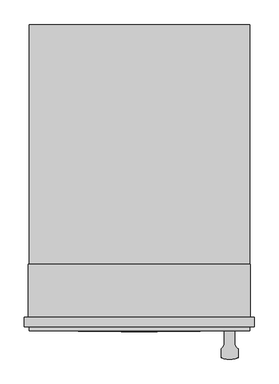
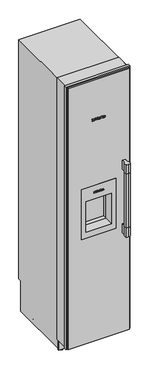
"""IFC4 building model written with IfcOpenShell, lengths in millimetres: proxy geometry, 11503530_USA_F2472SF : 37247211_USA_11503530_F2472SF."""

from ifc_helpers import new_model, si_unit, point, frame, frame_2d, origin, place, context, project, spatial, polyline, circle_curve, ellipse_curve, trimmed, segment, composite_curve, outline, extrude, faceted_brep, source, transform, mapped, element, save
from ifc_brep_helpers import plane_surface, cylinder_surface, revolved_surface, extruded_surface, advanced_brep


def specialty_equipment_17c33e57(model_context):
    return source(origin(), model_context, "Body", "SolidModel", [
        extrude(outline(polyline([(-6.5, 75.0), (6.5, 75.0), (6.5, 21.0), (-6.5, 21.0), (-6.5, 75.0)])), frame((0.0, 0.0, 99.0), z_axis=(0.0, 0.0, 1.0), x_axis=(1.0, 0.0, 0.0)), (0.0, 0.0, 1.0), 67.0),
        extrude(outline(polyline([(1295.0, 125.0), (1295.0, -125.0), (908.0, -125.0), (908.0, 125.0), (1295.0, 125.0)]), holes=[polyline([(1190.0, 94.0), (956.0, 94.0), (956.0, -94.0), (1190.0, -94.0), (1190.0, 94.0)])]), frame((0.0, -1.3, 0.0), z_axis=(0.0, 1.0, 0.0), x_axis=(0.0, 0.0, 1.0)), (0.0, 0.0, 1.0), 69.3),
        extrude(outline(polyline([(2036.0, 214.5), (2036.0, -214.5), (265.0, -214.5), (265.0, 214.5), (2036.0, 214.5)]), holes=[polyline([(1295.0, 125.0), (908.0, 125.0), (908.0, -125.0), (1295.0, -125.0), (1295.0, 125.0)])]), frame((0.0, 21.0, 0.0), z_axis=(0.0, 1.0, 0.0), x_axis=(0.0, 0.0, 1.0)), (0.0, 0.0, 1.0), 47.0),
        faceted_brep([(-158.0, 68.0, 863.0), (-158.0, 68.0, 1335.0), (-158.0, 260.0, 1335.0), (-158.0, 260.0, 987.0), (-158.0, 161.0, 863.0), (158.0, 68.0, 863.0), (158.0, 161.0, 863.0), (158.0, 260.0, 987.0), (158.0, 260.0, 1335.0), (158.0, 68.0, 1335.0), (94.0, 68.0, 1190.0), (94.0, 68.0, 956.0), (-94.0, 68.0, 956.0), (-94.0, 68.0, 1190.0), (94.0, 100.0, 1190.0), (-94.0, 100.0, 1190.0), (-94.0, 100.0, 956.0), (94.0, 100.0, 956.0)], [[[0, 1, 2, 3, 4]], [[5, 6, 7, 8, 9]], [[0, 4, 6, 5]], [[4, 3, 7, 6]], [[3, 2, 8, 7]], [[2, 1, 9, 8]], [[1, 0, 5, 9], [10, 11, 12, 13]], [[14, 15, 16, 17]], [[14, 17, 11, 10]], [[17, 16, 12, 11]], [[16, 15, 13, 12]], [[15, 14, 10, 13]]]),
        extrude(outline(polyline([(2113.0, 225.5), (2113.0, -225.5), (90.0, -225.5), (90.0, 225.5), (2113.0, 225.5)]), holes=[polyline([(1295.0, 125.0), (908.0, 125.0), (908.0, -125.0), (1295.0, -125.0), (1295.0, 125.0)])]), frame((0.0, 0.0, 0.0), z_axis=(0.0, 1.0, 0.0), x_axis=(0.0, 0.0, 1.0)), (0.0, 0.0, 1.0), 21.0),
        extrude(outline(polyline([(-61.0, 50.0), (61.0, 50.0), (61.0, 21.0), (-61.0, 21.0), (-61.0, 50.0)])), frame((0.0, 0.0, 2036.0), z_axis=(0.0, 0.0, 1.0), x_axis=(1.0, 0.0, 0.0)), (0.0, 0.0, 1.0), 56.0),
        extrude(outline(composite_curve([segment(trimmed(circle_curve(frame_2d((158.4285714, -24.4390599)), 15.5714286), [point((167.0, -37.4390599))], [point((174.0, -24.4390599))], True, "CARTESIAN"), True, "CONTINUOUS"), segment(polyline([(174.0, -24.4390599), (174.0, 0.0), (195.0, 0.0), (195.0, -24.4390599)]), True, "CONTINUOUS"), segment(trimmed(circle_curve(frame_2d((210.5714286, -24.4390599)), 15.5714286), [point((195.0, -24.4390599))], [point((202.0, -37.4390599))], True, "CARTESIAN"), True, "CONTINUOUS"), segment(polyline([(202.0, -37.4390599), (202.0, -55.0)]), True, "CONTINUOUS"), segment(trimmed(circle_curve(frame_2d((184.5, -18.71875)), 40.28125), [point((202.0, -55.0))], [point((184.5, -59.0))], False, "CARTESIAN"), True, "CONTINUOUS"), segment(trimmed(circle_curve(frame_2d((184.5, -18.71875)), 40.28125), [point((184.5, -59.0))], [point((167.0, -55.0))], False, "CARTESIAN"), True, "CONTINUOUS"), segment(polyline([(167.0, -55.0), (167.0, -37.4390599)]), True, "CONTINUOUS")], self_intersect=False)), frame((0.0, 0.0, 858.0), z_axis=(0.0, 0.0, 1.0), x_axis=(1.0, 0.0, 0.0)), (0.0, 0.0, 1.0), 70.0),
        extrude(outline(composite_curve([segment(trimmed(circle_curve(frame_2d((158.4285714, -24.4390599)), 15.5714286), [point((167.0, -37.4390599))], [point((174.0, -24.4390599))], True, "CARTESIAN"), True, "CONTINUOUS"), segment(polyline([(174.0, -24.4390599), (174.0, 0.0), (195.0, 0.0), (195.0, -24.4390599)]), True, "CONTINUOUS"), segment(trimmed(circle_curve(frame_2d((210.5714286, -24.4390599)), 15.5714286), [point((195.0, -24.4390599))], [point((202.0, -37.4390599))], True, "CARTESIAN"), True, "CONTINUOUS"), segment(polyline([(202.0, -37.4390599), (202.0, -55.0)]), True, "CONTINUOUS"), segment(trimmed(circle_curve(frame_2d((184.5, -18.71875)), 40.28125), [point((202.0, -55.0))], [point((184.5, -59.0))], False, "CARTESIAN"), True, "CONTINUOUS"), segment(trimmed(circle_curve(frame_2d((184.5, -18.71875)), 40.28125), [point((184.5, -59.0))], [point((167.0, -55.0))], False, "CARTESIAN"), True, "CONTINUOUS"), segment(polyline([(167.0, -55.0), (167.0, -37.4390599)]), True, "CONTINUOUS")], self_intersect=False)), frame((0.0, 0.0, 1348.0), z_axis=(0.0, 0.0, 1.0), x_axis=(1.0, 0.0, 0.0)), (0.0, 0.0, 1.0), 70.0),
        extrude(outline(composite_curve([segment(trimmed(circle_curve(frame_2d((158.4285714, -24.4390599)), 15.5714286), [point((167.0, -37.4390599))], [point((168.8599688, -36.0))], True, "CARTESIAN"), True, "CONTINUOUS"), segment(polyline([(168.8599688, -36.0), (200.1400312, -36.0)]), True, "CONTINUOUS"), segment(trimmed(circle_curve(frame_2d((210.5714286, -24.4390599)), 15.5714286), [point((200.1400312, -36.0))], [point((202.0, -37.4390599))], True, "CARTESIAN"), True, "CONTINUOUS"), segment(polyline([(202.0, -37.4390599), (202.0, -55.0)]), True, "CONTINUOUS"), segment(trimmed(circle_curve(frame_2d((184.5, -18.71875)), 40.28125), [point((202.0, -55.0))], [point((184.5, -59.0))], False, "CARTESIAN"), True, "CONTINUOUS"), segment(trimmed(circle_curve(frame_2d((184.5, -18.71875)), 40.28125), [point((184.5, -59.0))], [point((167.0, -55.0))], False, "CARTESIAN"), True, "CONTINUOUS"), segment(polyline([(167.0, -55.0), (167.0, -37.4390599)]), True, "CONTINUOUS")], self_intersect=False)), frame((0.0, 0.0, 928.0), z_axis=(0.0, 0.0, 1.0), x_axis=(1.0, 0.0, 0.0)), (0.0, 0.0, 1.0), 420.0),
        advanced_brep(
        [(28.472, -2.3, 1241.344), (28.472, -2.3, 1242.556), (36.5, -2.3, 1242.556), (22.532, -2.3, 1242.556), (25.832, -2.3, 1238.5), (36.296, -2.3, 1241.344), (32.672, -2.3, 1241.344), (29.816, -2.3, 1240.0), (28.472, -2.3, 1244.092), (28.472, -2.3, 1245.4), (30.524, -2.3, 1245.4), (30.524, -2.3, 1244.092), (28.472, -1.3, 1241.344), (29.816, -1.3, 1240.0), (32.672, -1.3, 1241.344), (36.296, -1.3, 1241.344), (25.832, -1.3, 1238.5), (22.532, -1.3, 1242.556), (36.5, -1.3, 1242.556), (28.472, -1.3, 1242.556), (28.472, -1.3, 1244.092), (30.524, -1.3, 1244.092), (30.524, -1.3, 1245.4), (28.472, -1.3, 1245.4)],
        [
            (0, 1),
            (1, 2),
            (2, 3, ellipse_curve(frame((29.516, -2.3, 1242.556), z_axis=(0.0, -1.0, 0.0), x_axis=(-1.0, 0.0, 0.0)), 6.984, 5.772)),
            (3, 4, circle_curve(frame((27.1760655, -2.3, 1242.964), z_axis=(0.0, -1.0, 0.0), x_axis=(0.0, 0.0, -1.0)), 4.6619532)),
            (4, 5, circle_curve(frame((29.3761904, -2.3, 1246.132), z_axis=(0.0, -1.0, 0.0), x_axis=(0.0, 0.0, -1.0)), 8.4147911)),
            (5, 6),
            (6, 7, circle_curve(frame((30.4025882, -2.3, 1242.46), z_axis=(0.0, 1.0, 0.0), x_axis=(0.0, 0.0, -1.0)), 2.5289693)),
            (7, 0, circle_curve(frame((29.816, -2.3, 1241.344), z_axis=(0.0, 1.0, 0.0), x_axis=(0.0, 0.0, -1.0)), 1.344)),
            (8, 9),
            (9, 10, circle_curve(frame((29.498, -2.3, 1245.4), z_axis=(0.0, 1.0, 0.0), x_axis=(0.0, 0.0, -1.0)), 1.026)),
            (10, 11),
            (11, 8),
            (12, 13, circle_curve(frame((29.816, -1.3, 1241.344), z_axis=(0.0, -1.0, 0.0), x_axis=(0.0, 0.0, -1.0)), 1.344)),
            (13, 14, circle_curve(frame((30.4025882, -1.3, 1242.46), z_axis=(0.0, -1.0, 0.0), x_axis=(0.0, 0.0, -1.0)), 2.5289693)),
            (14, 15),
            (15, 16, circle_curve(frame((29.3761904, -1.3, 1246.132), z_axis=(0.0, 1.0, 0.0), x_axis=(0.0, 0.0, -1.0)), 8.4147911)),
            (16, 17, circle_curve(frame((27.1760655, -1.3, 1242.964), z_axis=(0.0, 1.0, 0.0), x_axis=(0.0, 0.0, -1.0)), 4.6619532)),
            (17, 18, ellipse_curve(frame((29.516, -1.3, 1242.556), z_axis=(0.0, 1.0, 0.0), x_axis=(-1.0, 0.0, 0.0)), 6.984, 5.772)),
            (18, 19),
            (19, 12),
            (20, 21),
            (21, 22),
            (22, 23, circle_curve(frame((29.498, -1.3, 1245.4), z_axis=(0.0, -1.0, 0.0), x_axis=(0.0, 0.0, -1.0)), 1.026)),
            (23, 20),
            (0, 12),
            (19, 1),
            (18, 2),
            (5, 15),
            (14, 6),
            (17, 3),
            (13, 7),
            (16, 4),
            (8, 20),
            (23, 9),
            (22, 10),
            (21, 11),
        ],
        [
            plane_surface(frame((28.472, -2.3, 1242.556), z_axis=(0.0, -1.0, 0.0), x_axis=(0.0, 0.0, 1.0))),
            plane_surface(frame((28.472, -1.3, 1242.556), z_axis=(0.0, 1.0, 0.0), x_axis=(0.0, 0.0, -1.0))),
            plane_surface(frame((28.472, -2.3, 1241.344), z_axis=(1.0, 0.0, 0.0), x_axis=(0.0, 1.0, 0.0))),
            plane_surface(frame((28.472, -2.3, 1242.556), z_axis=(0.0, 0.0, -1.0), x_axis=(0.0, 1.0, 0.0))),
            plane_surface(frame((36.296, -2.3, 1241.344), z_axis=(0.0, 0.0, 1.0), x_axis=(0.0, 1.0, 0.0))),
            extruded_surface(trimmed(ellipse_curve(frame((29.516, -0.3, 1242.556), z_axis=(0.0, -1.0, 0.0), x_axis=(-1.0, 0.0, 0.0)), 6.984, 5.772), [point((36.5, -0.3, 1242.556))], [point((22.532, -0.3, 1242.556))], True, "CARTESIAN"), (0.0, -1.0, 0.0), 1.0),
            revolved_surface(polyline([(30.4025882, -1.3, 1239.9310307), (30.4025882, -2.3, 1239.9310307)]), (30.4025882, -1.3, 1242.46), (0.0, 1.0, 0.0)),
            revolved_surface(polyline([(29.816, -1.3, 1240.0), (29.816, -2.3, 1240.0)]), (29.816, -1.3, 1241.344), (0.0, 1.0, 0.0)),
            cylinder_surface(frame((27.1760655, -1.3, 1242.964), z_axis=(0.0, -1.0, 0.0), x_axis=(0.0, 0.0, -1.0)), 4.6619532),
            cylinder_surface(frame((29.3761904, -1.3, 1246.132), z_axis=(0.0, -1.0, 0.0), x_axis=(0.0, 0.0, -1.0)), 8.4147911),
            plane_surface(frame((28.472, -2.3, 1244.092), z_axis=(1.0, 0.0, 0.0), x_axis=(0.0, 1.0, 0.0))),
            revolved_surface(polyline([(29.498, -1.3, 1244.374), (29.498, -2.3, 1244.374)]), (29.498, -1.3, 1245.4), (0.0, 1.0, 0.0)),
            plane_surface(frame((30.524, -2.3, 1245.4), z_axis=(-1.0, 0.0, 0.0), x_axis=(0.0, 1.0, 0.0))),
            plane_surface(frame((30.524, -2.3, 1244.092), z_axis=(0.0, 0.0, 1.0), x_axis=(0.0, 1.0, 0.0))),
        ],
        [
            (0, [[1, 2, 3, 4, 5, 6, 7, 8], [9, 10, 11, 12]]),
            (1, [[13, 14, 15, 16, 17, 18, 19, 20], [21, 22, 23, 24]]),
            (2, [[-1, 25, -20, 26]]),
            (3, [[-2, -26, -19, 27]]),
            (4, [[-6, 28, -15, 29]]),
            (5, [[-3, -27, -18, 30]]),
            (6, [[-7, -29, -14, 31]]),
            (7, [[-8, -31, -13, -25]]),
            (8, [[-4, -30, -17, 32]]),
            (9, [[-5, -32, -16, -28]]),
            (10, [[-9, 33, -24, 34]]),
            (11, [[-10, -34, -23, 35]]),
            (12, [[-11, -35, -22, 36]]),
            (13, [[-12, -36, -21, -33]]),
        ],
    ),
        advanced_brep(
        [(3.428, -2.3, 1241.344), (3.428, -2.3, 1242.556), (11.456, -2.3, 1242.556), (-2.512, -2.3, 1242.556), (0.788, -2.3, 1238.5), (11.252, -2.3, 1241.344), (7.628, -2.3, 1241.344), (4.772, -2.3, 1240.0), (3.428, -2.3, 1244.092), (3.428, -2.3, 1245.4), (5.48, -2.3, 1245.4), (5.48, -2.3, 1244.092), (3.428, -1.3, 1241.344), (4.772, -1.3, 1240.0), (7.628, -1.3, 1241.344), (11.252, -1.3, 1241.344), (0.788, -1.3, 1238.5), (-2.512, -1.3, 1242.556), (11.456, -1.3, 1242.556), (3.428, -1.3, 1242.556), (3.428, -1.3, 1244.092), (5.48, -1.3, 1244.092), (5.48, -1.3, 1245.4), (3.428, -1.3, 1245.4)],
        [
            (0, 1),
            (1, 2),
            (2, 3, ellipse_curve(frame((4.472, -2.3, 1242.556), z_axis=(0.0, -1.0, 0.0), x_axis=(-1.0, 0.0, 0.0)), 6.984, 5.772)),
            (3, 4, circle_curve(frame((2.1320655, -2.3, 1242.964), z_axis=(0.0, -1.0, 0.0), x_axis=(0.0, 0.0, -1.0)), 4.6619532)),
            (4, 5, circle_curve(frame((4.3321904, -2.3, 1246.132), z_axis=(0.0, -1.0, 0.0), x_axis=(0.0, 0.0, -1.0)), 8.4147911)),
            (5, 6),
            (6, 7, circle_curve(frame((5.3585882, -2.3, 1242.46), z_axis=(0.0, 1.0, 0.0), x_axis=(0.0, 0.0, -1.0)), 2.5289693)),
            (7, 0, circle_curve(frame((4.772, -2.3, 1241.344), z_axis=(0.0, 1.0, 0.0), x_axis=(0.0, 0.0, -1.0)), 1.344)),
            (8, 9),
            (9, 10, circle_curve(frame((4.454, -2.3, 1245.4), z_axis=(0.0, 1.0, 0.0), x_axis=(0.0, 0.0, -1.0)), 1.026)),
            (10, 11),
            (11, 8),
            (12, 13, circle_curve(frame((4.772, -1.3, 1241.344), z_axis=(0.0, -1.0, 0.0), x_axis=(0.0, 0.0, -1.0)), 1.344)),
            (13, 14, circle_curve(frame((5.3585882, -1.3, 1242.46), z_axis=(0.0, -1.0, 0.0), x_axis=(0.0, 0.0, -1.0)), 2.5289693)),
            (14, 15),
            (15, 16, circle_curve(frame((4.3321904, -1.3, 1246.132), z_axis=(0.0, 1.0, 0.0), x_axis=(0.0, 0.0, -1.0)), 8.4147911)),
            (16, 17, circle_curve(frame((2.1320655, -1.3, 1242.964), z_axis=(0.0, 1.0, 0.0), x_axis=(0.0, 0.0, -1.0)), 4.6619532)),
            (17, 18, ellipse_curve(frame((4.472, -1.3, 1242.556), z_axis=(0.0, 1.0, 0.0), x_axis=(-1.0, 0.0, 0.0)), 6.984, 5.772)),
            (18, 19),
            (19, 12),
            (20, 21),
            (21, 22),
            (22, 23, circle_curve(frame((4.454, -1.3, 1245.4), z_axis=(0.0, -1.0, 0.0), x_axis=(0.0, 0.0, -1.0)), 1.026)),
            (23, 20),
            (0, 12),
            (19, 1),
            (18, 2),
            (5, 15),
            (14, 6),
            (17, 3),
            (13, 7),
            (16, 4),
            (8, 20),
            (23, 9),
            (22, 10),
            (21, 11),
        ],
        [
            plane_surface(frame((3.428, -2.3, 1242.556), z_axis=(0.0, -1.0, 0.0), x_axis=(0.0, 0.0, 1.0))),
            plane_surface(frame((3.428, -1.3, 1242.556), z_axis=(0.0, 1.0, 0.0), x_axis=(0.0, 0.0, -1.0))),
            plane_surface(frame((3.428, -2.3, 1241.344), z_axis=(1.0, 0.0, 0.0), x_axis=(0.0, 1.0, 0.0))),
            plane_surface(frame((3.428, -2.3, 1242.556), z_axis=(0.0, 0.0, -1.0), x_axis=(0.0, 1.0, 0.0))),
            plane_surface(frame((11.252, -2.3, 1241.344), z_axis=(0.0, 0.0, 1.0), x_axis=(0.0, 1.0, 0.0))),
            extruded_surface(trimmed(ellipse_curve(frame((4.472, -0.3, 1242.556), z_axis=(0.0, -1.0, 0.0), x_axis=(-1.0, 0.0, 0.0)), 6.984, 5.772), [point((11.456, -0.3, 1242.556))], [point((-2.512, -0.3, 1242.556))], True, "CARTESIAN"), (0.0, -1.0, 0.0), 1.0),
            revolved_surface(polyline([(5.3585882, -1.3, 1239.9310307), (5.3585882, -2.3, 1239.9310307)]), (5.3585882, -1.3, 1242.46), (0.0, 1.0, 0.0)),
            revolved_surface(polyline([(4.772, -1.3, 1240.0), (4.772, -2.3, 1240.0)]), (4.772, -1.3, 1241.344), (0.0, 1.0, 0.0)),
            cylinder_surface(frame((2.1320655, -1.3, 1242.964), z_axis=(0.0, -1.0, 0.0), x_axis=(0.0, 0.0, -1.0)), 4.6619532),
            cylinder_surface(frame((4.3321904, -1.3, 1246.132), z_axis=(0.0, -1.0, 0.0), x_axis=(0.0, 0.0, -1.0)), 8.4147911),
            plane_surface(frame((3.428, -2.3, 1244.092), z_axis=(1.0, 0.0, 0.0), x_axis=(0.0, 1.0, 0.0))),
            revolved_surface(polyline([(4.454, -1.3, 1244.374), (4.454, -2.3, 1244.374)]), (4.454, -1.3, 1245.4), (0.0, 1.0, 0.0)),
            plane_surface(frame((5.48, -2.3, 1245.4), z_axis=(-1.0, 0.0, 0.0), x_axis=(0.0, 1.0, 0.0))),
            plane_surface(frame((5.48, -2.3, 1244.092), z_axis=(0.0, 0.0, 1.0), x_axis=(0.0, 1.0, 0.0))),
        ],
        [
            (0, [[1, 2, 3, 4, 5, 6, 7, 8], [9, 10, 11, 12]]),
            (1, [[13, 14, 15, 16, 17, 18, 19, 20], [21, 22, 23, 24]]),
            (2, [[-1, 25, -20, 26]]),
            (3, [[-2, -26, -19, 27]]),
            (4, [[-6, 28, -15, 29]]),
            (5, [[-3, -27, -18, 30]]),
            (6, [[-7, -29, -14, 31]]),
            (7, [[-8, -31, -13, -25]]),
            (8, [[-4, -30, -17, 32]]),
            (9, [[-5, -32, -16, -28]]),
            (10, [[-9, 33, -24, 34]]),
            (11, [[-10, -34, -23, 35]]),
            (12, [[-11, -35, -22, 36]]),
            (13, [[-12, -36, -21, -33]]),
        ],
    ),
        extrude(outline(polyline([(1249.792, -9.688), (1247.848, -8.776), (1249.744, -4.708), (1251.688, -5.608), (1249.792, -9.688)])), frame((0.0, -2.3, 0.0), z_axis=(0.0, 1.0, 0.0), x_axis=(0.0, 0.0, 1.0)), (0.0, 0.0, 1.0), 1.0),
        extrude(outline(polyline([(1247.584, -12.652), (1245.436, -12.652), (1245.436, -11.224), (1240.516, -11.224), (1240.516, -12.652), (1238.5, -12.652), (1238.5, -3.184), (1240.516, -3.184), (1240.516, -4.576), (1247.584, -4.576), (1247.584, -12.652)])), frame((0.0, -2.3, 0.0), z_axis=(0.0, 1.0, 0.0), x_axis=(0.0, 0.0, 1.0)), (0.0, 0.0, 1.0), 1.0),
        extrude(outline(polyline([(1248.544, 12.128), (1248.544, 13.568), (1240.516, 13.568), (1240.516, 12.128), (1238.5, 12.128), (1238.5, 21.86), (1240.516, 21.86), (1240.516, 20.384), (1250.5, 20.384), (1250.5, 12.128), (1248.544, 12.128)])), frame((0.0, -2.3, 0.0), z_axis=(0.0, 1.0, 0.0), x_axis=(0.0, 0.0, 1.0)), (0.0, 0.0, 1.0), 1.0),
        extrude(outline(polyline([(1248.544, -36.568), (1248.544, -35.116), (1240.516, -35.116), (1240.516, -36.568), (1238.5, -36.568), (1238.5, -31.288), (1240.516, -31.288), (1240.516, -32.728), (1245.5951247, -32.728), (1238.5, -27.364), (1245.8152223, -21.976), (1240.516, -21.976), (1240.516, -23.452), (1238.5, -23.452), (1238.5, -13.876), (1240.516, -13.876), (1240.516, -15.4), (1248.544, -15.4), (1248.544, -13.876), (1250.5, -13.876), (1250.5, -21.184), (1246.0, -24.688), (1250.5, -28.204), (1250.5, -36.568), (1248.544, -36.568)])), frame((0.0, -2.3, 0.0), z_axis=(0.0, 1.0, 0.0), x_axis=(0.0, 0.0, 1.0)), (0.0, 0.0, 1.0), 1.0),
        advanced_brep(
        [(38.22, -1.0, 1801.792), (38.22, -1.0, 1803.408), (48.924, -1.0, 1803.408), (30.3, -1.0, 1803.408), (34.7, -1.0, 1798.0), (48.652, -1.0, 1801.792), (43.82, -1.0, 1801.792), (40.012, -1.0, 1800.0), (38.22, -1.0, 1805.456), (38.22, -1.0, 1807.2), (40.956, -1.0, 1807.2), (40.956, -1.0, 1805.456), (38.22, 0.0, 1801.792), (40.012, 0.0, 1800.0), (43.82, 0.0, 1801.792), (48.652, 0.0, 1801.792), (34.7, 0.0, 1798.0), (30.3, 0.0, 1803.408), (48.924, 0.0, 1803.408), (38.22, 0.0, 1803.408), (38.22, 0.0, 1805.456), (40.956, 0.0, 1805.456), (40.956, 0.0, 1807.2), (38.22, 0.0, 1807.2)],
        [
            (0, 1),
            (1, 2),
            (2, 3, ellipse_curve(frame((39.612, -1.0, 1803.408), z_axis=(0.0, -1.0, 0.0), x_axis=(-1.0, 0.0, 0.0)), 9.312, 7.696)),
            (3, 4, circle_curve(frame((36.4920873, -1.0, 1803.952), z_axis=(0.0, -1.0, 0.0), x_axis=(0.0, 0.0, -1.0)), 6.2159376)),
            (4, 5, circle_curve(frame((39.4255872, -1.0, 1808.176), z_axis=(0.0, -1.0, 0.0), x_axis=(0.0, 0.0, -1.0)), 11.2197215)),
            (5, 6),
            (6, 7, circle_curve(frame((40.7941176, -1.0, 1803.28), z_axis=(0.0, 1.0, 0.0), x_axis=(0.0, 0.0, -1.0)), 3.3719591)),
            (7, 0, circle_curve(frame((40.012, -1.0, 1801.792), z_axis=(0.0, 1.0, 0.0), x_axis=(0.0, 0.0, -1.0)), 1.792)),
            (8, 9),
            (9, 10, circle_curve(frame((39.588, -1.0, 1807.2), z_axis=(0.0, 1.0, 0.0), x_axis=(0.0, 0.0, -1.0)), 1.368)),
            (10, 11),
            (11, 8),
            (12, 13, circle_curve(frame((40.012, 0.0, 1801.792), z_axis=(0.0, -1.0, 0.0), x_axis=(0.0, 0.0, -1.0)), 1.792)),
            (13, 14, circle_curve(frame((40.7941176, 0.0, 1803.28), z_axis=(0.0, -1.0, 0.0), x_axis=(0.0, 0.0, -1.0)), 3.3719591)),
            (14, 15),
            (15, 16, circle_curve(frame((39.4255872, 0.0, 1808.176), z_axis=(0.0, 1.0, 0.0), x_axis=(0.0, 0.0, -1.0)), 11.2197215)),
            (16, 17, circle_curve(frame((36.4920873, 0.0, 1803.952), z_axis=(0.0, 1.0, 0.0), x_axis=(0.0, 0.0, -1.0)), 6.2159376)),
            (17, 18, ellipse_curve(frame((39.612, 0.0, 1803.408), z_axis=(0.0, 1.0, 0.0), x_axis=(-1.0, 0.0, 0.0)), 9.312, 7.696)),
            (18, 19),
            (19, 12),
            (20, 21),
            (21, 22),
            (22, 23, circle_curve(frame((39.588, 0.0, 1807.2), z_axis=(0.0, -1.0, 0.0), x_axis=(0.0, 0.0, -1.0)), 1.368)),
            (23, 20),
            (0, 12),
            (19, 1),
            (18, 2),
            (5, 15),
            (14, 6),
            (17, 3),
            (13, 7),
            (16, 4),
            (8, 20),
            (23, 9),
            (22, 10),
            (21, 11),
        ],
        [
            plane_surface(frame((38.22, -1.0, 1803.408), z_axis=(0.0, -1.0, 0.0), x_axis=(0.0, 0.0, 1.0))),
            plane_surface(frame((38.22, 0.0, 1803.408), z_axis=(0.0, 1.0, 0.0), x_axis=(0.0, 0.0, -1.0))),
            plane_surface(frame((38.22, -1.0, 1801.792), z_axis=(1.0, 0.0, 0.0), x_axis=(0.0, 1.0, 0.0))),
            plane_surface(frame((38.22, -1.0, 1803.408), z_axis=(0.0, 0.0, -1.0), x_axis=(0.0, 1.0, 0.0))),
            plane_surface(frame((48.652, -1.0, 1801.792), z_axis=(0.0, 0.0, 1.0), x_axis=(0.0, 1.0, 0.0))),
            extruded_surface(trimmed(ellipse_curve(frame((39.612, 1.0, 1803.408), z_axis=(0.0, -1.0, 0.0), x_axis=(-1.0, 0.0, 0.0)), 9.312, 7.696), [point((48.924, 1.0, 1803.408))], [point((30.3, 1.0, 1803.408))], True, "CARTESIAN"), (0.0, -1.0, 0.0), 1.0),
            revolved_surface(polyline([(40.7941176, 0.0, 1799.9080409), (40.7941176, -1.0, 1799.9080409)]), (40.7941176, 0.0, 1803.28), (0.0, 1.0, 0.0)),
            revolved_surface(polyline([(40.012, 0.0, 1800.0), (40.012, -1.0, 1800.0)]), (40.012, 0.0, 1801.792), (0.0, 1.0, 0.0)),
            cylinder_surface(frame((36.4920873, 0.0, 1803.952), z_axis=(0.0, -1.0, 0.0), x_axis=(0.0, 0.0, -1.0)), 6.2159376),
            cylinder_surface(frame((39.4255872, 0.0, 1808.176), z_axis=(0.0, -1.0, 0.0), x_axis=(0.0, 0.0, -1.0)), 11.2197215),
            plane_surface(frame((38.22, -1.0, 1805.456), z_axis=(1.0, 0.0, 0.0), x_axis=(0.0, 1.0, 0.0))),
            revolved_surface(polyline([(39.588, 0.0, 1805.832), (39.588, -1.0, 1805.832)]), (39.588, 0.0, 1807.2), (0.0, 1.0, 0.0)),
            plane_surface(frame((40.956, -1.0, 1807.2), z_axis=(-1.0, 0.0, 0.0), x_axis=(0.0, 1.0, 0.0))),
            plane_surface(frame((40.956, -1.0, 1805.456), z_axis=(0.0, 0.0, 1.0), x_axis=(0.0, 1.0, 0.0))),
        ],
        [
            (0, [[1, 2, 3, 4, 5, 6, 7, 8], [9, 10, 11, 12]]),
            (1, [[13, 14, 15, 16, 17, 18, 19, 20], [21, 22, 23, 24]]),
            (2, [[-1, 25, -20, 26]]),
            (3, [[-2, -26, -19, 27]]),
            (4, [[-6, 28, -15, 29]]),
            (5, [[-3, -27, -18, 30]]),
            (6, [[-7, -29, -14, 31]]),
            (7, [[-8, -31, -13, -25]]),
            (8, [[-4, -30, -17, 32]]),
            (9, [[-5, -32, -16, -28]]),
            (10, [[-9, 33, -24, 34]]),
            (11, [[-10, -34, -23, 35]]),
            (12, [[-11, -35, -22, 36]]),
            (13, [[-12, -36, -21, -33]]),
        ],
    ),
        advanced_brep(
        [(4.828, -1.0, 1801.792), (4.828, -1.0, 1803.408), (15.532, -1.0, 1803.408), (-3.092, -1.0, 1803.408), (1.308, -1.0, 1798.0), (15.26, -1.0, 1801.792), (10.428, -1.0, 1801.792), (6.62, -1.0, 1800.0), (4.828, -1.0, 1805.456), (4.828, -1.0, 1807.2), (7.564, -1.0, 1807.2), (7.564, -1.0, 1805.456), (4.828, 0.0, 1801.792), (6.62, 0.0, 1800.0), (10.428, 0.0, 1801.792), (15.26, 0.0, 1801.792), (1.308, 0.0, 1798.0), (-3.092, 0.0, 1803.408), (15.532, 0.0, 1803.408), (4.828, 0.0, 1803.408), (4.828, 0.0, 1805.456), (7.564, 0.0, 1805.456), (7.564, 0.0, 1807.2), (4.828, 0.0, 1807.2)],
        [
            (0, 1),
            (1, 2),
            (2, 3, ellipse_curve(frame((6.22, -1.0, 1803.408), z_axis=(0.0, -1.0, 0.0), x_axis=(-1.0, 0.0, 0.0)), 9.312, 7.696)),
            (3, 4, circle_curve(frame((3.1000873, -1.0, 1803.952), z_axis=(0.0, -1.0, 0.0), x_axis=(0.0, 0.0, -1.0)), 6.2159376)),
            (4, 5, circle_curve(frame((6.0335872, -1.0, 1808.176), z_axis=(0.0, -1.0, 0.0), x_axis=(0.0, 0.0, -1.0)), 11.2197215)),
            (5, 6),
            (6, 7, circle_curve(frame((7.4021176, -1.0, 1803.28), z_axis=(0.0, 1.0, 0.0), x_axis=(0.0, 0.0, -1.0)), 3.3719591)),
            (7, 0, circle_curve(frame((6.62, -1.0, 1801.792), z_axis=(0.0, 1.0, 0.0), x_axis=(0.0, 0.0, -1.0)), 1.792)),
            (8, 9),
            (9, 10, circle_curve(frame((6.196, -1.0, 1807.2), z_axis=(0.0, 1.0, 0.0), x_axis=(0.0, 0.0, -1.0)), 1.368)),
            (10, 11),
            (11, 8),
            (12, 13, circle_curve(frame((6.62, 0.0, 1801.792), z_axis=(0.0, -1.0, 0.0), x_axis=(0.0, 0.0, -1.0)), 1.792)),
            (13, 14, circle_curve(frame((7.4021176, 0.0, 1803.28), z_axis=(0.0, -1.0, 0.0), x_axis=(0.0, 0.0, -1.0)), 3.3719591)),
            (14, 15),
            (15, 16, circle_curve(frame((6.0335872, 0.0, 1808.176), z_axis=(0.0, 1.0, 0.0), x_axis=(0.0, 0.0, -1.0)), 11.2197215)),
            (16, 17, circle_curve(frame((3.1000873, 0.0, 1803.952), z_axis=(0.0, 1.0, 0.0), x_axis=(0.0, 0.0, -1.0)), 6.2159376)),
            (17, 18, ellipse_curve(frame((6.22, 0.0, 1803.408), z_axis=(0.0, 1.0, 0.0), x_axis=(-1.0, 0.0, 0.0)), 9.312, 7.696)),
            (18, 19),
            (19, 12),
            (20, 21),
            (21, 22),
            (22, 23, circle_curve(frame((6.196, 0.0, 1807.2), z_axis=(0.0, -1.0, 0.0), x_axis=(0.0, 0.0, -1.0)), 1.368)),
            (23, 20),
            (0, 12),
            (19, 1),
            (18, 2),
            (5, 15),
            (14, 6),
            (17, 3),
            (13, 7),
            (16, 4),
            (8, 20),
            (23, 9),
            (22, 10),
            (21, 11),
        ],
        [
            plane_surface(frame((4.828, -1.0, 1803.408), z_axis=(0.0, -1.0, 0.0), x_axis=(0.0, 0.0, 1.0))),
            plane_surface(frame((4.828, 0.0, 1803.408), z_axis=(0.0, 1.0, 0.0), x_axis=(0.0, 0.0, -1.0))),
            plane_surface(frame((4.828, -1.0, 1801.792), z_axis=(1.0, 0.0, 0.0), x_axis=(0.0, 1.0, 0.0))),
            plane_surface(frame((4.828, -1.0, 1803.408), z_axis=(0.0, 0.0, -1.0), x_axis=(0.0, 1.0, 0.0))),
            plane_surface(frame((15.26, -1.0, 1801.792), z_axis=(0.0, 0.0, 1.0), x_axis=(0.0, 1.0, 0.0))),
            extruded_surface(trimmed(ellipse_curve(frame((6.22, 1.0, 1803.408), z_axis=(0.0, -1.0, 0.0), x_axis=(-1.0, 0.0, 0.0)), 9.312, 7.696), [point((15.532, 1.0, 1803.408))], [point((-3.092, 1.0, 1803.408))], True, "CARTESIAN"), (0.0, -1.0, 0.0), 1.0),
            revolved_surface(polyline([(7.4021176, 0.0, 1799.9080409), (7.4021176, -1.0, 1799.9080409)]), (7.4021176, 0.0, 1803.28), (0.0, 1.0, 0.0)),
            revolved_surface(polyline([(6.62, 0.0, 1800.0), (6.62, -1.0, 1800.0)]), (6.62, 0.0, 1801.792), (0.0, 1.0, 0.0)),
            cylinder_surface(frame((3.1000873, 0.0, 1803.952), z_axis=(0.0, -1.0, 0.0), x_axis=(0.0, 0.0, -1.0)), 6.2159376),
            cylinder_surface(frame((6.0335872, 0.0, 1808.176), z_axis=(0.0, -1.0, 0.0), x_axis=(0.0, 0.0, -1.0)), 11.2197215),
            plane_surface(frame((4.828, -1.0, 1805.456), z_axis=(1.0, 0.0, 0.0), x_axis=(0.0, 1.0, 0.0))),
            revolved_surface(polyline([(6.196, 0.0, 1805.832), (6.196, -1.0, 1805.832)]), (6.196, 0.0, 1807.2), (0.0, 1.0, 0.0)),
            plane_surface(frame((7.564, -1.0, 1807.2), z_axis=(-1.0, 0.0, 0.0), x_axis=(0.0, 1.0, 0.0))),
            plane_surface(frame((7.564, -1.0, 1805.456), z_axis=(0.0, 0.0, 1.0), x_axis=(0.0, 1.0, 0.0))),
        ],
        [
            (0, [[1, 2, 3, 4, 5, 6, 7, 8], [9, 10, 11, 12]]),
            (1, [[13, 14, 15, 16, 17, 18, 19, 20], [21, 22, 23, 24]]),
            (2, [[-1, 25, -20, 26]]),
            (3, [[-2, -26, -19, 27]]),
            (4, [[-6, 28, -15, 29]]),
            (5, [[-3, -27, -18, 30]]),
            (6, [[-7, -29, -14, 31]]),
            (7, [[-8, -31, -13, -25]]),
            (8, [[-4, -30, -17, 32]]),
            (9, [[-5, -32, -16, -28]]),
            (10, [[-9, 33, -24, 34]]),
            (11, [[-10, -34, -23, 35]]),
            (12, [[-11, -35, -22, 36]]),
            (13, [[-12, -36, -21, -33]]),
        ],
    ),
        extrude(outline(polyline([(1813.056, -12.66), (1810.464, -11.444), (1812.992, -6.02), (1815.584, -7.22), (1813.056, -12.66)])), frame((0.0, -1.0, 0.0), z_axis=(0.0, 1.0, 0.0), x_axis=(0.0, 0.0, 1.0)), (0.0, 0.0, 1.0), 1.0),
        extrude(outline(polyline([(1810.112, -16.612), (1807.248, -16.612), (1807.248, -14.708), (1800.688, -14.708), (1800.688, -16.612), (1798.0, -16.612), (1798.0, -3.988), (1800.688, -3.988), (1800.688, -5.844), (1810.112, -5.844), (1810.112, -16.612)])), frame((0.0, -1.0, 0.0), z_axis=(0.0, 1.0, 0.0), x_axis=(0.0, 0.0, 1.0)), (0.0, 0.0, 1.0), 1.0),
        extrude(outline(polyline([(1811.392, 16.428), (1811.392, 18.348), (1800.688, 18.348), (1800.688, 16.428), (1798.0, 16.428), (1798.0, 29.404), (1800.688, 29.404), (1800.688, 27.436), (1814.0, 27.436), (1814.0, 16.428), (1811.392, 16.428)])), frame((0.0, -1.0, 0.0), z_axis=(0.0, 1.0, 0.0), x_axis=(0.0, 0.0, 1.0)), (0.0, 0.0, 1.0), 1.0),
        extrude(outline(polyline([(1811.392, -48.5), (1811.392, -46.564), (1800.688, -46.564), (1800.688, -48.5), (1798.0, -48.5), (1798.0, -41.46), (1800.688, -41.46), (1800.688, -43.38), (1807.4431247, -43.38), (1798.0, -36.228), (1807.8152223, -29.044), (1800.688, -29.044), (1800.688, -31.012), (1798.0, -31.012), (1798.0, -18.244), (1800.688, -18.244), (1800.688, -20.276), (1811.392, -20.276), (1811.392, -18.244), (1814.0, -18.244), (1814.0, -27.988), (1808.0, -32.66), (1814.0, -37.348), (1814.0, -48.5), (1811.392, -48.5)])), frame((0.0, -1.0, 0.0), z_axis=(0.0, 1.0, 0.0), x_axis=(0.0, 0.0, 1.0)), (0.0, 0.0, 1.0), 1.0),
        extrude(outline(polyline([(540.0, 1998.0), (540.0, 1799.0), (468.0526316, 1799.0), (443.0, 1867.0), (222.7448904, 1867.0), (178.0, 1939.0), (108.0, 1949.0), (108.0, 1998.0), (540.0, 1998.0)])), frame((-179.5, 0.0, 0.0), z_axis=(1.0, 0.0, 0.0), x_axis=(0.0, 1.0, 0.0)), (0.0, 0.0, 1.0), 359.0),
        extrude(outline(polyline([(217.9886114, 1875.0), (216.809433, 1875.0), (179.6921935, 1934.4), (180.8713719, 1934.4), (217.9886114, 1875.0)])), frame((-69.0, 0.0, 0.0), z_axis=(1.0, 0.0, 0.0), x_axis=(0.0, 1.0, 0.0)), (0.0, 0.0, 1.0), 138.0),
        extrude(outline(polyline([(46.0510837, -89.101717), (37.4134902, -91.1745179), (46.0453554, -93.6868463), (46.0453554, -95.5601414), (37.4089549, -98.0799633), (46.0493903, -100.1581876), (46.0493903, -101.4649805), (36.0005458, -98.7156324), (36.0005458, -97.372208), (44.8261022, -94.6342221), (35.9987467, -92.0620509), (35.9987287, -90.5451466), (46.0510837, -87.800191), (46.0510837, -89.101717)])), frame((0.0, 625.0, 0.0), z_axis=(0.0, 1.0, 0.0), x_axis=(0.0, 0.0, 1.0)), (0.0, 0.0, 1.0), 1.0),
        extrude(outline(polyline([(46.0485238, -80.7401503), (41.1363122, -80.7401503), (46.0468162, -85.884602), (46.0468162, -87.6328316), (41.9156889, -83.3260313), (36.000035, -87.8032231), (36.000035, -86.2795519), (41.0742849, -82.4391666), (39.4525334, -80.7395503), (35.9999292, -80.7395503), (35.9999292, -79.4795491), (46.0485238, -79.4795491), (46.0485238, -80.7401503)])), frame((0.0, 625.0, 0.0), z_axis=(0.0, 1.0, 0.0), x_axis=(0.0, 0.0, 1.0)), (0.0, 0.0, 1.0), 1.0),
        extrude(outline(composite_curve([segment(trimmed(circle_curve(frame_2d((41.0, -90.0)), 7.5), [point((33.5, -90.0))], [point((48.5, -90.0))], False, "CARTESIAN"), True, "CONTINUOUS"), segment(trimmed(circle_curve(frame_2d((41.0, -90.0)), 7.5), [point((48.5, -90.0))], [point((33.5, -90.0))], False, "CARTESIAN"), True, "CONTINUOUS")], self_intersect=False)), frame((0.0, 598.0, 0.0), z_axis=(0.0, 1.0, 0.0), x_axis=(0.0, 0.0, 1.0)), (0.0, 0.0, 1.0), 27.0),
        extrude(outline(polyline([(2095.0, -219.0), (2047.0, -219.0), (2047.0, -185.0), (2036.5, -185.0), (2036.5, -70.0), (2047.0, -70.0), (2047.0, -64.0), (2095.0, -64.0), (2095.0, -219.0)])), frame((0.0, 21.0, 0.0), z_axis=(0.0, 1.0, 0.0), x_axis=(0.0, 0.0, 1.0)), (0.0, 0.0, 1.0), 47.0),
        extrude(outline(polyline([(254.0, -219.0), (206.0, -219.0), (206.0, -64.0), (254.0, -64.0), (254.0, -70.0), (264.0, -70.0), (264.0, -185.0), (254.0, -185.0), (254.0, -219.0)])), frame((0.0, 21.0, 0.0), z_axis=(0.0, 1.0, 0.0), x_axis=(0.0, 0.0, 1.0)), (0.0, 0.0, 1.0), 54.0),
        extrude(outline(polyline([(265.0, -55.5), (205.0, -55.5), (205.0, -219.0), (166.0, -219.0), (166.0, 28.5), (265.0, 28.5), (265.0, -55.5)])), frame((0.0, 21.0, 0.0), z_axis=(0.0, 1.0, 0.0), x_axis=(0.0, 0.0, 1.0)), (0.0, 0.0, 1.0), 54.0),
        extrude(outline(polyline([(99.0373308, -135.2645771), (97.7615342, -135.2645771), (97.7615342, -129.3195541), (94.7968516, -129.3195541), (94.7968516, -134.969579), (93.5246295, -134.969579), (93.5246295, -129.3415693), (90.2570046, -129.3415693), (90.2570046, -135.4619689), (88.9546219, -135.4619689), (88.9546219, -128.0443524), (99.0373308, -128.0443524), (99.0373308, -135.2645771)])), frame((0.0, 625.0, 0.0), z_axis=(0.0, 1.0, 0.0), x_axis=(0.0, 0.0, 1.0)), (0.0, 0.0, 1.0), 1.0),
        extrude(outline(polyline([(99.0458, -138.5619704), (90.2663944, -138.5619704), (90.2663944, -143.6145879), (89.0134802, -143.6145879), (89.0134802, -137.3423809), (99.0458, -137.3423809), (99.0458, -138.5619704)])), frame((0.0, 625.0, 0.0), z_axis=(0.0, 1.0, 0.0), x_axis=(0.0, 0.0, 1.0)), (0.0, 0.0, 1.0), 1.0),
        extrude(outline(composite_curve([segment(trimmed(circle_curve(frame_2d((94.0, -135.5)), 7.5), [point((86.5, -135.5))], [point((101.5, -135.5))], False, "CARTESIAN"), True, "CONTINUOUS"), segment(trimmed(circle_curve(frame_2d((94.0, -135.5)), 7.5), [point((101.5, -135.5))], [point((86.5, -135.5))], False, "CARTESIAN"), True, "CONTINUOUS")], self_intersect=False)), frame((0.0, 598.0, 0.0), z_axis=(0.0, 1.0, 0.0), x_axis=(0.0, 0.0, 1.0)), (0.0, 0.0, 1.0), 27.0),
        extrude(outline(polyline([(-225.5, 125.0), (225.5, 125.0), (225.5, 120.0), (-225.5, 120.0), (-225.5, 125.0)])), frame((0.0, 0.0, 14.0), z_axis=(0.0, 0.0, 1.0), x_axis=(1.0, 0.0, 0.0)), (0.0, 0.0, 1.0), 83.0),
        advanced_brep(
        [(-191.5, 160.0, 0.0), (-191.5, 130.0, 0.0), (-191.5, 160.0, 7.0), (-191.5, 130.0, 7.0), (-191.5, 149.7, 7.0), (-191.5, 140.3, 7.0), (-191.5, 149.7, 28.0), (-191.5, 140.3, 28.0)],
        [
            (0, 1, circle_curve(frame((-191.5, 145.0, 0.0), z_axis=(0.0, 0.0, -1.0), x_axis=(1.0, 0.0, 0.0)), 15.0)),
            (1, 0, circle_curve(frame((-191.5, 145.0, 0.0), z_axis=(0.0, 0.0, -1.0), x_axis=(1.0, 0.0, 0.0)), 15.0)),
            (2, 3, circle_curve(frame((-191.5, 145.0, 7.0), z_axis=(0.0, 0.0, 1.0), x_axis=(1.0, 0.0, 0.0)), 15.0)),
            (3, 2, circle_curve(frame((-191.5, 145.0, 7.0), z_axis=(0.0, 0.0, 1.0), x_axis=(1.0, 0.0, 0.0)), 15.0)),
            (4, 5, circle_curve(frame((-191.5, 145.0, 7.0), z_axis=(0.0, 0.0, -1.0), x_axis=(0.0, -1.0, 0.0)), 4.7)),
            (5, 4, circle_curve(frame((-191.5, 145.0, 7.0), z_axis=(0.0, 0.0, -1.0), x_axis=(0.0, -1.0, 0.0)), 4.7)),
            (0, 2),
            (3, 1),
            (6, 7, circle_curve(frame((-191.5, 145.0, 28.0), z_axis=(0.0, 0.0, 1.0), x_axis=(0.0, -1.0, 0.0)), 4.7)),
            (7, 6, circle_curve(frame((-191.5, 145.0, 28.0), z_axis=(0.0, 0.0, 1.0), x_axis=(0.0, -1.0, 0.0)), 4.7)),
            (7, 5),
            (4, 6),
        ],
        [
            plane_surface(frame((-176.5, 145.0, 0.0), z_axis=(0.0, 0.0, -1.0), x_axis=(0.0, -1.0, 0.0))),
            plane_surface(frame((-176.5, 145.0, 7.0), z_axis=(0.0, 0.0, 1.0), x_axis=(0.0, 1.0, 0.0))),
            cylinder_surface(frame((-191.5, 145.0, 7.0), z_axis=(0.0, 0.0, -1.0), x_axis=(1.0, 0.0, 0.0)), 15.0),
            plane_surface(frame((-191.5, 140.3, 28.0), z_axis=(0.0, 0.0, 1.0), x_axis=(1.0, 0.0, 0.0))),
            cylinder_surface(frame((-191.5, 145.0, 28.0), z_axis=(0.0, 0.0, -1.0), x_axis=(0.0, -1.0, 0.0)), 4.7),
        ],
        [
            (0, [[1, 2]]),
            (1, [[3, 4], [5, 6]]),
            (2, [[-1, 7, -4, 8]]),
            (2, [[-2, -8, -3, -7]]),
            (3, [[9, 10]]),
            (4, [[-10, 11, -5, 12]]),
            (4, [[-9, -12, -6, -11]]),
        ],
    ),
        advanced_brep(
        [(191.5, 160.0, 0.0), (191.5, 130.0, 0.0), (191.5, 160.0, 7.0), (191.5, 130.0, 7.0), (191.5, 149.7, 7.0), (191.5, 140.3, 7.0), (191.5, 149.7, 28.0), (191.5, 140.3, 28.0)],
        [
            (0, 1, circle_curve(frame((191.5, 145.0, 0.0), z_axis=(0.0, 0.0, -1.0), x_axis=(1.0, 0.0, 0.0)), 15.0)),
            (1, 0, circle_curve(frame((191.5, 145.0, 0.0), z_axis=(0.0, 0.0, -1.0), x_axis=(1.0, 0.0, 0.0)), 15.0)),
            (2, 3, circle_curve(frame((191.5, 145.0, 7.0), z_axis=(0.0, 0.0, 1.0), x_axis=(1.0, 0.0, 0.0)), 15.0)),
            (3, 2, circle_curve(frame((191.5, 145.0, 7.0), z_axis=(0.0, 0.0, 1.0), x_axis=(1.0, 0.0, 0.0)), 15.0)),
            (4, 5, circle_curve(frame((191.5, 145.0, 7.0), z_axis=(0.0, 0.0, -1.0), x_axis=(0.0, -1.0, 0.0)), 4.7)),
            (5, 4, circle_curve(frame((191.5, 145.0, 7.0), z_axis=(0.0, 0.0, -1.0), x_axis=(0.0, -1.0, 0.0)), 4.7)),
            (0, 2),
            (3, 1),
            (6, 7, circle_curve(frame((191.5, 145.0, 28.0), z_axis=(0.0, 0.0, 1.0), x_axis=(0.0, -1.0, 0.0)), 4.7)),
            (7, 6, circle_curve(frame((191.5, 145.0, 28.0), z_axis=(0.0, 0.0, 1.0), x_axis=(0.0, -1.0, 0.0)), 4.7)),
            (7, 5),
            (4, 6),
        ],
        [
            plane_surface(frame((-176.5, 145.0, 0.0), z_axis=(0.0, 0.0, -1.0), x_axis=(0.0, -1.0, 0.0))),
            plane_surface(frame((-176.5, 145.0, 7.0), z_axis=(0.0, 0.0, 1.0), x_axis=(0.0, 1.0, 0.0))),
            cylinder_surface(frame((191.5, 145.0, 7.0), z_axis=(0.0, 0.0, -1.0), x_axis=(1.0, 0.0, 0.0)), 15.0),
            plane_surface(frame((-191.5, 140.3, 28.0), z_axis=(0.0, 0.0, 1.0), x_axis=(1.0, 0.0, 0.0))),
            cylinder_surface(frame((191.5, 145.0, 28.0), z_axis=(0.0, 0.0, -1.0), x_axis=(0.0, -1.0, 0.0)), 4.7),
        ],
        [
            (0, [[1, 2]]),
            (1, [[3, 4], [5, 6]]),
            (2, [[-1, 7, -4, 8]]),
            (2, [[-2, -8, -3, -7]]),
            (3, [[9, 10]]),
            (4, [[-10, 11, -5, 12]]),
            (4, [[-9, -12, -6, -11]]),
        ],
    ),
        advanced_brep(
        [(225.5, 68.0, 2114.0), (225.5, 68.0, 267.0), (225.5, 75.0, 267.0), (225.5, 75.0, 97.0), (225.5, 125.0, 97.0), (225.5, 125.0, 28.0), (225.5, 598.0, 28.0), (225.5, 598.0, 263.0), (225.5, 625.0, 263.0), (225.5, 625.0, 2114.0), (-225.5, 68.0, 2114.0), (-225.5, 625.0, 2114.0), (-225.5, 625.0, 263.0), (-225.5, 598.0, 263.0), (-225.5, 598.0, 28.0), (-225.5, 125.0, 28.0), (-225.5, 125.0, 97.0), (-225.5, 75.0, 97.0), (-225.5, 75.0, 267.0), (-225.5, 68.0, 267.0), (165.5, 598.0, 28.0), (165.5, 598.0, 14.0), (-165.5, 598.0, 14.0), (-165.5, 598.0, 28.0), (165.5, 125.0, 14.0), (-165.5, 125.0, 14.0), (-165.5, 125.0, 28.0), (165.5, 125.0, 28.0), (179.5, 68.0, 1998.0), (179.5, 68.0, 343.0), (-179.5, 68.0, 343.0), (-179.5, 68.0, 1998.0), (179.5, 540.0, 1998.0), (-179.5, 540.0, 1998.0), (-179.5, 540.0, 343.0), (179.5, 540.0, 343.0), (-184.0, 223.8193473, 28.0), (-203.0, 223.8193473, 28.0), (-203.0, 174.1806527, 28.0), (-184.0, 174.1806527, 28.0), (-203.5, 546.8193473, 28.0), (-203.5, 497.1806527, 28.0), (-187.5, 497.1806527, 28.0), (-187.5, 546.8193473, 28.0), (203.0, 174.1806527, 28.0), (203.0, 223.8193473, 28.0), (184.0, 223.8193473, 28.0), (184.0, 174.1806527, 28.0), (187.5, 546.8193473, 28.0), (187.5, 497.1806527, 28.0), (203.5, 497.1806527, 28.0), (203.5, 546.8193473, 28.0), (-184.0, 224.0, 25.0), (-184.0, 174.0, 25.0), (-203.0, 174.0, 25.0), (-203.0, 224.0, 25.0), (-184.0, 199.0, 25.0), (-203.0, 199.0, 25.0), (203.0, 199.0, 25.0), (203.0, 174.0, 25.0), (203.0, 224.0, 25.0), (184.0, 224.0, 25.0), (184.0, 174.0, 25.0), (184.0, 199.0, 25.0), (-203.5, 547.0, 25.0), (-203.5, 497.0, 25.0), (-203.5, 522.0, 25.0), (-187.5, 547.0, 25.0), (-187.5, 497.0, 25.0), (-187.5, 522.0, 25.0), (187.5, 547.0, 25.0), (187.5, 497.0, 25.0), (187.5, 522.0, 25.0), (203.5, 547.0, 25.0), (203.5, 497.0, 25.0), (203.5, 522.0, 25.0)],
        [
            (0, 1),
            (1, 2),
            (2, 3),
            (3, 4),
            (4, 5),
            (5, 6),
            (6, 7),
            (7, 8),
            (8, 9),
            (9, 0),
            (10, 11),
            (11, 12),
            (12, 13),
            (13, 14),
            (14, 15),
            (15, 16),
            (16, 17),
            (17, 18),
            (18, 19),
            (19, 10),
            (9, 11),
            (10, 0),
            (8, 12),
            (7, 13),
            (6, 20),
            (20, 21),
            (21, 22),
            (22, 23),
            (23, 14),
            (21, 24),
            (24, 25),
            (25, 22),
            (4, 16),
            (15, 26),
            (26, 25),
            (24, 27),
            (27, 5),
            (3, 17),
            (2, 18),
            (1, 19),
            (28, 29),
            (29, 30),
            (30, 31),
            (31, 28),
            (32, 33),
            (33, 34),
            (34, 35),
            (35, 32),
            (35, 29),
            (28, 32),
            (34, 30),
            (33, 31),
            (23, 26),
            (36, 37),
            (37, 38),
            (38, 39),
            (39, 36),
            (40, 41),
            (41, 42),
            (42, 43),
            (43, 40),
            (27, 20),
            (44, 45),
            (45, 46),
            (46, 47),
            (47, 44),
            (48, 49),
            (49, 50),
            (50, 51),
            (51, 48),
            (52, 53, circle_curve(frame((-184.0, 199.0, 25.0), z_axis=(-1.0, 0.0, 0.0), x_axis=(0.0, -1.0, 0.0)), 25.0)),
            (53, 54),
            (54, 55, circle_curve(frame((-203.0, 199.0, 25.0), z_axis=(1.0, 0.0, 0.0), x_axis=(0.0, -1.0, 0.0)), 25.0)),
            (55, 52),
            (53, 39, circle_curve(frame((-184.0, 199.0, 25.0), z_axis=(-1.0, 0.0, 0.0), x_axis=(0.0, -1.0, 0.0)), 25.0)),
            (38, 54, circle_curve(frame((-203.0, 199.0, 25.0), z_axis=(1.0, 0.0, 0.0), x_axis=(0.0, -1.0, 0.0)), 25.0)),
            (55, 37, circle_curve(frame((-203.0, 199.0, 25.0), z_axis=(1.0, 0.0, 0.0), x_axis=(0.0, -1.0, 0.0)), 25.0)),
            (36, 52, circle_curve(frame((-184.0, 199.0, 25.0), z_axis=(-1.0, 0.0, 0.0), x_axis=(0.0, -1.0, 0.0)), 25.0)),
            (52, 56),
            (56, 53),
            (54, 57),
            (57, 55),
            (58, 59),
            (59, 60, circle_curve(frame((203.0, 199.0, 25.0), z_axis=(1.0, 0.0, 0.0), x_axis=(0.0, -1.0, 0.0)), 25.0)),
            (60, 58),
            (60, 45, circle_curve(frame((203.0, 199.0, 25.0), z_axis=(1.0, 0.0, 0.0), x_axis=(0.0, -1.0, 0.0)), 25.0)),
            (44, 59, circle_curve(frame((203.0, 199.0, 25.0), z_axis=(1.0, 0.0, 0.0), x_axis=(0.0, -1.0, 0.0)), 25.0)),
            (61, 62, circle_curve(frame((184.0, 199.0, 25.0), z_axis=(-1.0, 0.0, 0.0), x_axis=(0.0, -1.0, 0.0)), 25.0)),
            (62, 63),
            (63, 61),
            (62, 47, circle_curve(frame((184.0, 199.0, 25.0), z_axis=(-1.0, 0.0, 0.0), x_axis=(0.0, -1.0, 0.0)), 25.0)),
            (46, 61, circle_curve(frame((184.0, 199.0, 25.0), z_axis=(-1.0, 0.0, 0.0), x_axis=(0.0, -1.0, 0.0)), 25.0)),
            (64, 65, circle_curve(frame((-203.5, 522.0, 25.0), z_axis=(-1.0, 0.0, 0.0), x_axis=(0.0, -1.0, 0.0)), 25.0)),
            (65, 66),
            (66, 64),
            (65, 41, circle_curve(frame((-203.5, 522.0, 25.0), z_axis=(-1.0, 0.0, 0.0), x_axis=(0.0, -1.0, 0.0)), 25.0)),
            (40, 64, circle_curve(frame((-203.5, 522.0, 25.0), z_axis=(-1.0, 0.0, 0.0), x_axis=(0.0, -1.0, 0.0)), 25.0)),
            (64, 67),
            (67, 68, circle_curve(frame((-187.5, 522.0, 25.0), z_axis=(-1.0, 0.0, 0.0), x_axis=(0.0, -1.0, 0.0)), 25.0)),
            (68, 65),
            (43, 67, circle_curve(frame((-187.5, 522.0, 25.0), z_axis=(-1.0, 0.0, 0.0), x_axis=(0.0, -1.0, 0.0)), 25.0)),
            (68, 42, circle_curve(frame((-187.5, 522.0, 25.0), z_axis=(-1.0, 0.0, 0.0), x_axis=(0.0, -1.0, 0.0)), 25.0)),
            (67, 69),
            (69, 68),
            (70, 71, circle_curve(frame((187.5, 522.0, 25.0), z_axis=(-1.0, 0.0, 0.0), x_axis=(0.0, -1.0, 0.0)), 25.0)),
            (71, 72),
            (72, 70),
            (71, 49, circle_curve(frame((187.5, 522.0, 25.0), z_axis=(-1.0, 0.0, 0.0), x_axis=(0.0, -1.0, 0.0)), 25.0)),
            (48, 70, circle_curve(frame((187.5, 522.0, 25.0), z_axis=(-1.0, 0.0, 0.0), x_axis=(0.0, -1.0, 0.0)), 25.0)),
            (70, 73),
            (73, 74, circle_curve(frame((203.5, 522.0, 25.0), z_axis=(-1.0, 0.0, 0.0), x_axis=(0.0, -1.0, 0.0)), 25.0)),
            (74, 71),
            (51, 73, circle_curve(frame((203.5, 522.0, 25.0), z_axis=(-1.0, 0.0, 0.0), x_axis=(0.0, -1.0, 0.0)), 25.0)),
            (74, 50, circle_curve(frame((203.5, 522.0, 25.0), z_axis=(-1.0, 0.0, 0.0), x_axis=(0.0, -1.0, 0.0)), 25.0)),
            (73, 75),
            (75, 74),
            (59, 62),
            (61, 60),
        ],
        [
            plane_surface(frame((225.5, 625.0, 2114.0), z_axis=(1.0, 0.0, 0.0), x_axis=(0.0, -1.0, 0.0))),
            plane_surface(frame((-225.5, 625.0, 2114.0), z_axis=(-1.0, 0.0, 0.0), x_axis=(0.0, 1.0, 0.0))),
            plane_surface(frame((-225.5, 68.0, 2114.0), z_axis=(0.0, 0.0, 1.0), x_axis=(1.0, 0.0, 0.0))),
            plane_surface(frame((-225.5, 625.0, 2114.0), z_axis=(0.0, 1.0, 0.0), x_axis=(1.0, 0.0, 0.0))),
            plane_surface(frame((-225.5, 625.0, 263.0), z_axis=(0.0, 0.0, -1.0), x_axis=(1.0, 0.0, 0.0))),
            plane_surface(frame((-225.5, 598.0, 263.0), z_axis=(0.0, 1.0, 0.0), x_axis=(1.0, 0.0, 0.0))),
            plane_surface(frame((-225.5, 598.0, 14.0), z_axis=(0.0, 0.0, -1.0), x_axis=(1.0, 0.0, 0.0))),
            plane_surface(frame((-225.5, 125.0, 14.0), z_axis=(0.0, -1.0, 0.0), x_axis=(1.0, 0.0, 0.0))),
            plane_surface(frame((-225.5, 125.0, 97.0), z_axis=(0.0, 0.0, -1.0), x_axis=(1.0, 0.0, 0.0))),
            plane_surface(frame((-225.5, 75.0, 97.0), z_axis=(0.0, -1.0, 0.0), x_axis=(1.0, 0.0, 0.0))),
            plane_surface(frame((-225.5, 75.0, 267.0), z_axis=(0.0, 0.0, -1.0), x_axis=(1.0, 0.0, 0.0))),
            plane_surface(frame((-225.5, 68.0, 267.0), z_axis=(0.0, -1.0, 0.0), x_axis=(1.0, 0.0, 0.0))),
            plane_surface(frame((179.5, 540.0, 1998.0), z_axis=(0.0, -1.0, 0.0), x_axis=(0.0, 0.0, -1.0))),
            plane_surface(frame((179.5, 540.0, 1998.0), z_axis=(-1.0, 0.0, 0.0), x_axis=(0.0, -1.0, 0.0))),
            plane_surface(frame((179.5, 540.0, 343.0), z_axis=(0.0, 0.0, 1.0), x_axis=(0.0, -1.0, 0.0))),
            plane_surface(frame((-179.5, 540.0, 343.0), z_axis=(1.0, 0.0, 0.0), x_axis=(0.0, -1.0, 0.0))),
            plane_surface(frame((-179.5, 540.0, 1998.0), z_axis=(0.0, 0.0, -1.0), x_axis=(0.0, -1.0, 0.0))),
            plane_surface(frame((-225.5, 625.0, 28.0), z_axis=(0.0, 0.0, -1.0), x_axis=(-1.0, 0.0, 0.0))),
            plane_surface(frame((-165.5, 125.0, 28.0), z_axis=(-1.0, 0.0, 0.0), x_axis=(0.0, 0.0, -1.0))),
            plane_surface(frame((165.5, 625.0, 28.0), z_axis=(1.0, 0.0, 0.0), x_axis=(0.0, 0.0, -1.0))),
            cylinder_surface(frame((-318.1988927, 199.0, 25.0), z_axis=(1.0, 0.0, 0.0), x_axis=(0.0, -1.0, 0.0)), 25.0),
            plane_surface(frame((-184.0, 199.0, 25.0), z_axis=(1.0, 0.0, 0.0), x_axis=(0.0, -1.0, 0.0))),
            plane_surface(frame((-203.0, 199.0, 25.0), z_axis=(-1.0, 0.0, 0.0), x_axis=(0.0, -1.0, 0.0))),
            plane_surface(frame((203.0, 199.0, 25.0), z_axis=(1.0, 0.0, 0.0), x_axis=(0.0, -1.0, 0.0))),
            plane_surface(frame((184.0, 199.0, 25.0), z_axis=(-1.0, 0.0, 0.0), x_axis=(0.0, -1.0, 0.0))),
            plane_surface(frame((-203.5, 522.0, 25.0), z_axis=(-1.0, 0.0, 0.0), x_axis=(0.0, -1.0, 0.0))),
            cylinder_surface(frame((-318.1988927, 522.0, 25.0), z_axis=(1.0, 0.0, 0.0), x_axis=(0.0, -1.0, 0.0)), 25.0),
            plane_surface(frame((-187.5, 522.0, 25.0), z_axis=(1.0, 0.0, 0.0), x_axis=(0.0, -1.0, 0.0))),
            plane_surface(frame((187.5, 522.0, 25.0), z_axis=(-1.0, 0.0, 0.0), x_axis=(0.0, -1.0, 0.0))),
            plane_surface(frame((203.5, 522.0, 25.0), z_axis=(1.0, 0.0, 0.0), x_axis=(0.0, -1.0, 0.0))),
        ],
        [
            (0, [[1, 2, 3, 4, 5, 6, 7, 8, 9, 10]]),
            (1, [[11, 12, 13, 14, 15, 16, 17, 18, 19, 20]]),
            (2, [[-10, 21, -11, 22]]),
            (3, [[-9, 23, -12, -21]]),
            (4, [[-8, 24, -13, -23]]),
            (5, [[-24, -7, 25, 26, 27, 28, 29, -14]]),
            (6, [[-27, 30, 31, 32]]),
            (7, [[33, -16, 34, 35, -31, 36, 37, -5]]),
            (8, [[-4, 38, -17, -33]]),
            (9, [[-3, 39, -18, -38]]),
            (10, [[-2, 40, -19, -39]]),
            (11, [[-1, -22, -20, -40], [41, 42, 43, 44]]),
            (12, [[45, 46, 47, 48]]),
            (13, [[-48, 49, -41, 50]]),
            (14, [[-47, 51, -42, -49]]),
            (15, [[-46, 52, -43, -51]]),
            (16, [[-45, -50, -44, -52]]),
            (17, [[53, -34, -15, -29], [54, 55, 56, 57], [58, 59, 60, 61]]),
            (17, [[62, -25, -6, -37], [63, 64, 65, 66], [67, 68, 69, 70]]),
            (18, [[-53, -28, -32, -35]]),
            (19, [[-62, -36, -30, -26]]),
            (20, [[71, 72, 73, 74]]),
            (20, [[-72, 75, -56, 76]]),
            (20, [[-74, 77, -54, 78]]),
            (21, [[-71, 79, 80]]),
            (21, [[-80, -79, -78, -57, -75]]),
            (22, [[-73, 81, 82]]),
            (22, [[-81, -76, -55, -77, -82]]),
            (23, [[83, 84, 85]]),
            (23, [[-83, -85, 86, -63, 87]]),
            (24, [[88, 89, 90]]),
            (24, [[-89, 91, -65, 92, -90]]),
            (25, [[93, 94, 95]]),
            (25, [[-94, 96, -58, 97, -95]]),
            (26, [[-93, 98, 99, 100]]),
            (26, [[-98, -97, -61, 101]]),
            (26, [[-100, 102, -59, -96]]),
            (27, [[-99, 103, 104]]),
            (27, [[-104, -103, -101, -60, -102]]),
            (28, [[105, 106, 107]]),
            (28, [[-106, 108, -67, 109, -107]]),
            (26, [[-105, 110, 111, 112]]),
            (26, [[-110, -109, -70, 113]]),
            (26, [[-112, 114, -68, -108]]),
            (29, [[-111, 115, 116]]),
            (29, [[-116, -115, -113, -69, -114]]),
            (20, [[-84, 117, -88, 118]]),
            (20, [[-117, -87, -66, -91]]),
            (20, [[-118, -92, -64, -86]]),
        ],
    ),
        faceted_brep([(-235.0, 27.0, 91.0), (-235.0, 27.0, 2123.0), (235.0, 27.0, 2123.0), (235.0, 27.0, 91.0), (227.2, 27.0, 91.0), (227.2, 27.0, 2115.0), (-227.2, 27.0, 2115.0), (-227.2, 27.0, 91.0), (225.5, 8.0, 2114.0), (225.5, 8.0, 91.0), (235.0, 8.0, 91.0), (235.0, 8.0, 2123.0), (-235.0, 8.0, 2123.0), (-235.0, 8.0, 91.0), (-225.5, 8.0, 91.0), (-225.5, 8.0, 2114.0), (225.5, 136.0, 2114.0), (225.5, 136.0, 91.0), (-225.5, 136.0, 91.0), (-225.5, 136.0, 2114.0), (-227.2, 136.0, 91.0), (227.2, 136.0, 91.0), (-227.2, 136.0, 2115.0), (227.2, 136.0, 2115.0)], [[[0, 1, 2, 3, 4, 5, 6, 7]], [[8, 9, 10, 11, 12, 13, 14, 15]], [[9, 8, 16, 17]], [[15, 14, 18, 19]], [[16, 8, 15, 19]], [[18, 14, 13, 0, 7, 20]], [[1, 0, 13, 12]], [[2, 1, 12, 11]], [[3, 2, 11, 10]], [[10, 9, 17, 21, 4, 3]], [[16, 19, 18, 20, 22, 23, 21, 17]], [[22, 20, 7, 6]], [[23, 22, 6, 5]], [[21, 23, 5, 4]]]),
    ])


if __name__ == "__main__":
    model = new_model("IFC4")
    model_context = context("Model", 3, world=origin())
    ifc_project = project(units=[si_unit("LENGTHUNIT", "METRE", prefix="MILLI")], contexts=[model_context])
    site = spatial("IfcSite", under=ifc_project)
    building = spatial("IfcBuilding", under=site)
    placement = place(None, origin())
    specialty_equipment_shape = specialty_equipment_17c33e57(model_context)
    element("IfcBuildingElementProxy", 1, Name="11503530_USA_F2472SF : 37247211_USA_11503530_F2472SF", ObjectType="11503530_USA_F2472SF : 37247211_USA_11503530_F2472SF", at=placement, inside=building, context=model_context, shape_type="MappedRepresentation", body=[
        mapped(specialty_equipment_shape, transform((0.0, 0.0, 0.0), x_axis=(1.0, 0.0, 0.0), y_axis=(0.0, 1.0, 0.0), z_axis=(0.0, 0.0, 1.0))),
    ])
    save(model, "model.ifc")
